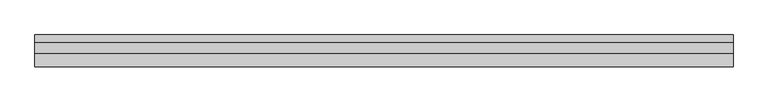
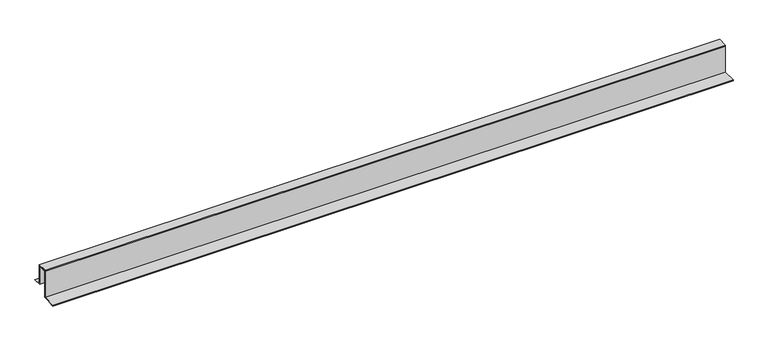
"""IFC4 building model written with IfcOpenShell, lengths in millimetres: proxy geometry, АК7_1 бок Обрамление оконного_дверного проема : АК7_1 бок Обрамление оконного_дверного проема."""

from ifc_helpers import new_model, si_unit, frame, origin, place, context, project, spatial, polyline, outline, extrude, source, transform, mapped, element, save


def generic_models_aaec1445(model_context):
    return source(origin(), model_context, "Body", "SweptSolid", [
        extrude(outline(polyline([(-12.5, 25.0), (-12.5, -35.9999552), (10.5, -35.9999552), (10.5, -36.9999552), (-13.5, -36.9999552), (-13.5, 24.0), (-41.5, 24.0), (-41.5, 23.0), (-27.5, 23.0), (-27.5, 22.0), (-42.5, 22.0), (-42.5, 25.0), (-12.5, 25.0)])), frame((0.0, 0.0, 0.0), z_axis=(1.0, 0.0, 0.0), x_axis=(0.0, 1.0, 0.0)), (0.0, 0.0, 1.0), 2024.9067457),
        extrude(outline(polyline([(-42.5, -60.0), (-42.5, 22.0), (-17.5, 22.0), (-17.5, 21.0), (-41.5, 21.0), (-41.5, -61.0), (-81.5, -61.0), (-81.5, -62.0), (-62.5, -62.0), (-62.5, -63.0), (-82.5, -63.0), (-82.5, -60.0), (-42.5, -60.0)])), frame((0.0, 0.0, 0.0), z_axis=(1.0, 0.0, 0.0), x_axis=(0.0, 1.0, 0.0)), (0.0, 0.0, 1.0), 2024.9067457),
    ])


if __name__ == "__main__":
    model = new_model("IFC4")
    model_context = context("Model", 3, world=origin())
    ifc_project = project(units=[si_unit("LENGTHUNIT", "METRE", prefix="MILLI")], contexts=[model_context])
    site = spatial("IfcSite", under=ifc_project)
    building = spatial("IfcBuilding", under=site)
    placement = place(None, origin())
    generic_models_shape = generic_models_aaec1445(model_context)
    element("IfcBuildingElementProxy", 1, Name="АК7_1 бок Обрамление оконного_дверного проема : АК7_1 бок Обрамление оконного_дверного проема", ObjectType="АК7_1 бок Обрамление оконного_дверного проема : АК7_1 бок Обрамление оконного_дверного проема", at=placement, inside=building, context=model_context, shape_type="MappedRepresentation", body=[
        mapped(generic_models_shape, transform((0.0, 0.0, 0.0), x_axis=(1.0, 0.0, 0.0), y_axis=(0.0, 1.0, 0.0), z_axis=(0.0, 0.0, 1.0))),
    ])
    save(model, "model.ifc")
